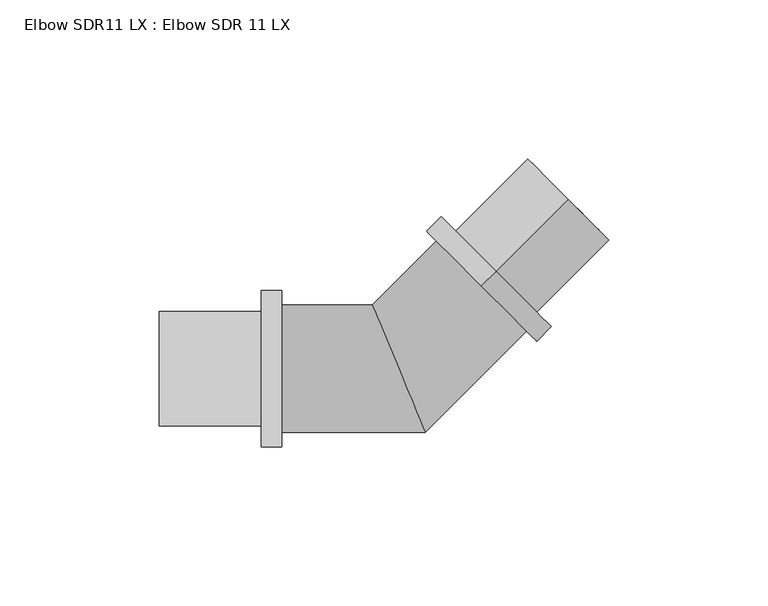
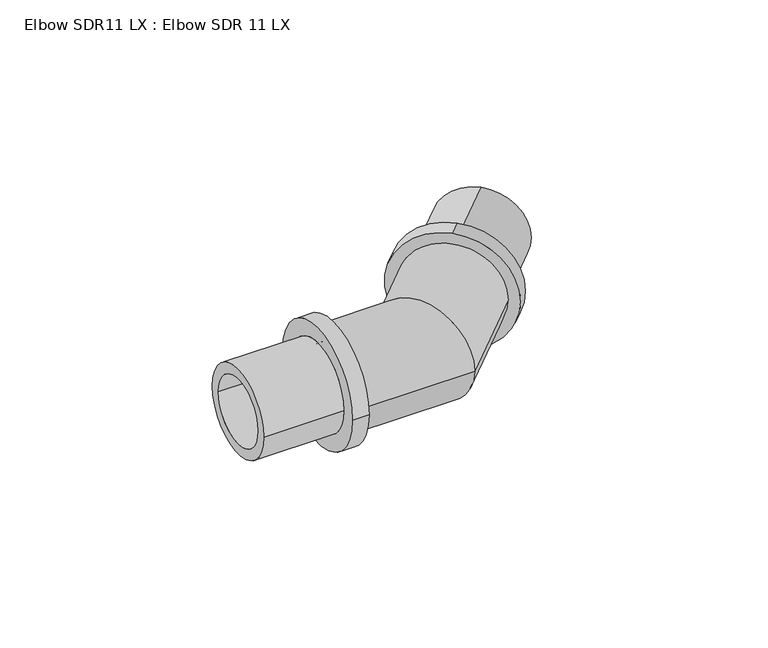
"""IFC4 building model written with IfcOpenShell, lengths in millimetres: pipe fitting geometry, Elbow SDR11 LX : Elbow SDR 11 LX."""

from ifc_helpers import new_model, si_unit, frame, origin, place, context, project, spatial, polyline, circle_curve, ellipse_curve, source, transform, mapped, element, save
from ifc_brep_helpers import plane_surface, cylinder_surface, revolved_surface, advanced_brep


def elbow_sdr11_lx_elbow_sdr_11_lx_ce320dea(model_context):
    return source(origin(), model_context, "Body", "AdvancedBrep", [
        advanced_brep(
        [(-36.7, -20.0, 0.0), (-36.7, 20.0, 0.0), (-36.7, -13.75, 0.0), (-36.7, 13.75, 0.0), (8.2842712, -20.0, 0.0), (-8.2842712, 20.0, 0.0), (5.6954365, -13.75, 0.0), (-5.6954365, 13.75, 0.0), (40.0929545, 11.8086832, 0.0), (11.8086832, 40.0929545, 0.0), (35.6735371, 16.2281006, 0.0), (16.2281006, 35.6735371, 0.0)],
        [
            (0, 1, circle_curve(frame((-36.7, 0.0, 0.0), z_axis=(-1.0, 0.0, 0.0), x_axis=(0.0, 1.0, 0.0)), 20.0)),
            (1, 0, circle_curve(frame((-36.7, 0.0, 0.0), z_axis=(-1.0, 0.0, 0.0), x_axis=(0.0, 1.0, 0.0)), 20.0)),
            (2, 3, circle_curve(frame((-36.7, 0.0, 0.0), z_axis=(1.0, 0.0, 0.0), x_axis=(0.0, 1.0, 0.0)), 13.75)),
            (3, 2, circle_curve(frame((-36.7, 0.0, 0.0), z_axis=(1.0, 0.0, 0.0), x_axis=(0.0, 1.0, 0.0)), 13.75)),
            (0, 4),
            (4, 5, ellipse_curve(frame((0.0, 0.0, 0.0), z_axis=(-0.9238795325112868, -0.3826834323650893, 0.0), x_axis=(-0.3826834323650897, 0.9238795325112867, 0.0)), 21.647844, 20.0)),
            (5, 1),
            (5, 4, ellipse_curve(frame((0.0, 0.0, 0.0), z_axis=(-0.9238795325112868, -0.3826834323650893, 0.0), x_axis=(-0.3826834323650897, 0.9238795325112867, 0.0)), 21.647844, 20.0)),
            (2, 6),
            (6, 7, ellipse_curve(frame((0.0, 0.0, 0.0), z_axis=(0.9238795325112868, 0.3826834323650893, 0.0), x_axis=(0.3826834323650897, -0.9238795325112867, 0.0)), 14.8828928, 13.75)),
            (7, 3),
            (7, 6, ellipse_curve(frame((0.0, 0.0, 0.0), z_axis=(0.9238795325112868, 0.3826834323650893, 0.0), x_axis=(0.3826834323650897, -0.9238795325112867, 0.0)), 14.8828928, 13.75)),
            (8, 9, circle_curve(frame((25.9508189, 25.9508189, 0.0), z_axis=(0.7071067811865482, 0.7071067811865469, 0.0), x_axis=(-0.7071067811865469, 0.7071067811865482, 0.0)), 20.0)),
            (9, 8, circle_curve(frame((25.9508189, 25.9508189, 0.0), z_axis=(0.7071067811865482, 0.7071067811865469, 0.0), x_axis=(-0.7071067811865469, 0.7071067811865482, 0.0)), 20.0)),
            (10, 11, circle_curve(frame((25.9508189, 25.9508189, 0.0), z_axis=(-0.7071067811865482, -0.7071067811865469, 0.0), x_axis=(-0.7071067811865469, 0.7071067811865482, 0.0)), 13.75)),
            (11, 10, circle_curve(frame((25.9508189, 25.9508189, 0.0), z_axis=(-0.7071067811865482, -0.7071067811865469, 0.0), x_axis=(-0.7071067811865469, 0.7071067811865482, 0.0)), 13.75)),
            (4, 8),
            (9, 5),
            (6, 10),
            (11, 7),
        ],
        [
            plane_surface(frame((-36.7, 0.0, 0.0), z_axis=(-1.0, 0.0, 0.0), x_axis=(0.0, 0.0, 1.0))),
            cylinder_surface(frame((-36.7, 0.0, 0.0), z_axis=(-1.0, 0.0, 0.0), x_axis=(0.0, 1.0, 0.0)), 20.0),
            revolved_surface(polyline([(5.695436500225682, 13.75, 0.0), (-36.7, 13.75, 0.0)]), (-36.7, 0.0, 0.0), (1.0, 0.0, 0.0)),
            plane_surface(frame((25.9508189, 25.9508189, 0.0), z_axis=(0.7071067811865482, 0.7071067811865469, 0.0), x_axis=(0.0, 0.0, 1.0))),
            cylinder_surface(frame((0.0, 0.0, 0.0), z_axis=(-0.7071067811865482, -0.7071067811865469, 0.0), x_axis=(-0.7071067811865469, 0.7071067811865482, 0.0)), 20.0),
            revolved_surface(polyline([(16.22810065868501, 35.673537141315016, 0.0), (-13.750000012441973, 5.695436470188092, 0.0)]), (0.0, 0.0, 0.0), (0.7071067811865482, 0.7071067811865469, 0.0)),
        ],
        [
            (0, [[1, 2], [3, 4]]),
            (1, [[-1, 5, 6, 7]]),
            (1, [[-2, -7, 8, -5]]),
            (2, [[-3, 9, 10, 11]]),
            (2, [[-4, -11, 12, -9]]),
            (3, [[13, 14], [15, 16]]),
            (4, [[-6, 17, -14, 18]]),
            (4, [[-8, -18, -13, -17]]),
            (5, [[-10, 19, -16, 20]]),
            (5, [[-12, -20, -15, -19]]),
        ],
    ),
        advanced_brep(
        [(53.1744299, 53.1744299, 13.75), (53.1744299, 53.1744299, -13.75), (25.9508189, 25.9508189, -13.75), (25.9508189, 25.9508189, 13.75), (30.5470129, 30.5470129, 18.0), (30.5470129, 30.5470129, -18.0), (53.1744299, 53.1744299, -18.0), (53.1744299, 53.1744299, 18.0), (25.9508189, 25.9508189, 24.5), (25.9508189, 25.9508189, -24.5), (30.5470129, 30.5470129, -24.5), (30.5470129, 30.5470129, 24.5)],
        [
            (0, 1, circle_curve(frame((53.1744299, 53.1744299, 0.0), z_axis=(0.7071067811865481, 0.7071067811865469, 0.0), x_axis=(0.0, 0.0, -1.0)), 13.75)),
            (1, 2),
            (2, 3, circle_curve(frame((25.9508189, 25.9508189, 0.0), z_axis=(-0.7071067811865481, -0.7071067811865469, 0.0), x_axis=(0.0, 0.0, -1.0)), 13.75)),
            (3, 0),
            (4, 5, circle_curve(frame((30.5470129, 30.5470129, 0.0), z_axis=(0.7071067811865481, 0.7071067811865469, 0.0), x_axis=(0.0, 0.0, -1.0)), 18.0)),
            (5, 6),
            (6, 7, circle_curve(frame((53.1744299, 53.1744299, 0.0), z_axis=(-0.7071067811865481, -0.7071067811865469, 0.0), x_axis=(0.0, 0.0, -1.0)), 18.0)),
            (7, 4),
            (8, 9, circle_curve(frame((25.9508189, 25.9508189, 0.0), z_axis=(0.7071067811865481, 0.7071067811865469, 0.0), x_axis=(0.0, 0.0, -1.0)), 24.5)),
            (9, 10),
            (10, 11, circle_curve(frame((30.5470129, 30.5470129, 0.0), z_axis=(-0.7071067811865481, -0.7071067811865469, 0.0), x_axis=(0.0, 0.0, -1.0)), 24.5)),
            (11, 8),
            (1, 0, circle_curve(frame((53.1744299, 53.1744299, 0.0), z_axis=(0.7071067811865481, 0.7071067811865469, 0.0), x_axis=(0.0, 0.0, 1.0)), 13.75)),
            (3, 2, circle_curve(frame((25.9508189, 25.9508189, 0.0), z_axis=(-0.7071067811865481, -0.7071067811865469, 0.0), x_axis=(0.0, 0.0, 1.0)), 13.75)),
            (6, 7, circle_curve(frame((53.1744299, 53.1744299, 0.0), z_axis=(0.7071067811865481, 0.7071067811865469, 0.0), x_axis=(0.0, 0.0, 1.0)), 18.0)),
            (5, 4, circle_curve(frame((30.5470129, 30.5470129, 0.0), z_axis=(0.7071067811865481, 0.7071067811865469, 0.0), x_axis=(0.0, 0.0, 1.0)), 18.0)),
            (10, 11, circle_curve(frame((30.5470129, 30.5470129, 0.0), z_axis=(0.7071067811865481, 0.7071067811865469, 0.0), x_axis=(0.0, 0.0, 1.0)), 24.5)),
            (9, 8, circle_curve(frame((25.9508189, 25.9508189, 0.0), z_axis=(0.7071067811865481, 0.7071067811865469, 0.0), x_axis=(0.0, 0.0, 1.0)), 24.5)),
        ],
        [
            revolved_surface(polyline([(25.950818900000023, 25.950818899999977, -13.75), (53.17442990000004, 53.17442989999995, -13.75)]), (0.0, 0.0, 0.0), (-0.7071067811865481, -0.7071067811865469, 0.0)),
            cylinder_surface(frame((0.0, 0.0, 0.0), z_axis=(-0.7071067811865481, -0.7071067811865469, 0.0), x_axis=(0.0, 0.0, -1.0)), 18.0),
            cylinder_surface(frame((0.0, 0.0, 0.0), z_axis=(-0.7071067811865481, -0.7071067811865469, 0.0), x_axis=(0.0, 0.0, -1.0)), 24.5),
            revolved_surface(polyline([(25.950818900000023, 25.950818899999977, 13.75), (53.17442990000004, 53.17442989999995, 13.75)]), (0.0, 0.0, 0.0), (-0.7071067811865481, -0.7071067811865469, 0.0)),
            plane_surface(frame((53.1744299, 53.1744299, 0.0), z_axis=(0.7071067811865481, 0.7071067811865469, 0.0), x_axis=(0.0, 0.0, 1.0))),
            cylinder_surface(frame((0.0, 0.0, 0.0), z_axis=(-0.7071067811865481, -0.7071067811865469, 0.0), x_axis=(0.0, 0.0, 1.0)), 18.0),
            plane_surface(frame((30.5470129, 30.5470129, 0.0), z_axis=(0.7071067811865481, 0.7071067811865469, 0.0), x_axis=(0.0, 0.0, 1.0))),
            cylinder_surface(frame((0.0, 0.0, 0.0), z_axis=(-0.7071067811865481, -0.7071067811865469, 0.0), x_axis=(0.0, 0.0, 1.0)), 24.5),
            plane_surface(frame((25.9508189, 25.9508189, 0.0), z_axis=(-0.7071067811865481, -0.7071067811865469, 0.0), x_axis=(0.0, 0.0, 1.0))),
        ],
        [
            (0, [[1, 2, 3, 4]]),
            (1, [[5, 6, 7, 8]]),
            (2, [[9, 10, 11, 12]]),
            (3, [[13, -4, 14, -2]]),
            (4, [[15, -7], [-13, -1]]),
            (5, [[16, -8, -15, -6]]),
            (6, [[17, -11], [-16, -5]]),
            (7, [[18, -12, -17, -10]]),
            (8, [[-18, -9], [-14, -3]]),
        ],
    ),
        advanced_brep(
        [(-36.7, 24.5, 0.0), (-36.7, -24.5, 0.0), (-43.2, -24.5, 0.0), (-43.2, 24.5, 0.0), (-43.2, 18.0, 0.0), (-43.2, -18.0, 0.0), (-75.2, -18.0, 0.0), (-75.2, 18.0, 0.0), (-75.2, 13.75, 0.0), (-75.2, -13.75, 0.0), (-36.7, -13.75, 0.0), (-36.7, 13.75, 0.0)],
        [
            (0, 1, circle_curve(frame((-36.7, 0.0, 0.0), z_axis=(-1.0, 0.0, 0.0), x_axis=(0.0, -1.0, 0.0)), 24.5)),
            (1, 2),
            (2, 3, circle_curve(frame((-43.2, 0.0, 0.0), z_axis=(1.0, 0.0, 0.0), x_axis=(0.0, -1.0, 0.0)), 24.5)),
            (3, 0),
            (4, 5, circle_curve(frame((-43.2, 0.0, 0.0), z_axis=(-1.0, 0.0, 0.0), x_axis=(0.0, -1.0, 0.0)), 18.0)),
            (5, 6),
            (6, 7, circle_curve(frame((-75.2, 0.0, 0.0), z_axis=(1.0, 0.0, 0.0), x_axis=(0.0, -1.0, 0.0)), 18.0)),
            (7, 4),
            (8, 9, circle_curve(frame((-75.2, 0.0, 0.0), z_axis=(-1.0, 0.0, 0.0), x_axis=(0.0, -1.0, 0.0)), 13.75)),
            (9, 10),
            (10, 11, circle_curve(frame((-36.7, 0.0, 0.0), z_axis=(1.0, 0.0, 0.0), x_axis=(0.0, -1.0, 0.0)), 13.75)),
            (11, 8),
            (0, 1, circle_curve(frame((-36.7, 0.0, 0.0), z_axis=(1.0, 0.0, 0.0), x_axis=(0.0, 1.0, 0.0)), 24.5)),
            (10, 11, circle_curve(frame((-36.7, 0.0, 0.0), z_axis=(-1.0, 0.0, 0.0), x_axis=(0.0, 1.0, 0.0)), 13.75)),
            (3, 2, circle_curve(frame((-43.2, 0.0, 0.0), z_axis=(1.0, 0.0, 0.0), x_axis=(0.0, 1.0, 0.0)), 24.5)),
            (4, 5, circle_curve(frame((-43.2, 0.0, 0.0), z_axis=(1.0, 0.0, 0.0), x_axis=(0.0, 1.0, 0.0)), 18.0)),
            (7, 6, circle_curve(frame((-75.2, 0.0, 0.0), z_axis=(1.0, 0.0, 0.0), x_axis=(0.0, 1.0, 0.0)), 18.0)),
            (8, 9, circle_curve(frame((-75.2, 0.0, 0.0), z_axis=(1.0, 0.0, 0.0), x_axis=(0.0, 1.0, 0.0)), 13.75)),
        ],
        [
            cylinder_surface(frame((0.0, 0.0, 0.0), z_axis=(1.0, 0.0, 0.0), x_axis=(0.0, -1.0, 0.0)), 24.5),
            cylinder_surface(frame((0.0, 0.0, 0.0), z_axis=(1.0, 0.0, 0.0), x_axis=(0.0, -1.0, 0.0)), 18.0),
            revolved_surface(polyline([(-36.7, -13.75, 0.0), (-75.2, -13.75, 0.0)]), (0.0, 0.0, 0.0), (1.0, 0.0, 0.0)),
            plane_surface(frame((-36.7, 0.0, 0.0), z_axis=(1.0, 0.0, 0.0), x_axis=(0.0, 1.0, 0.0))),
            cylinder_surface(frame((0.0, 0.0, 0.0), z_axis=(1.0, 0.0, 0.0), x_axis=(0.0, 1.0, 0.0)), 24.5),
            plane_surface(frame((-43.2, 0.0, 0.0), z_axis=(-1.0, 0.0, 0.0), x_axis=(0.0, 1.0, 0.0))),
            cylinder_surface(frame((0.0, 0.0, 0.0), z_axis=(1.0, 0.0, 0.0), x_axis=(0.0, 1.0, 0.0)), 18.0),
            plane_surface(frame((-75.2, 0.0, 0.0), z_axis=(-1.0, 0.0, 0.0), x_axis=(0.0, 1.0, 0.0))),
            revolved_surface(polyline([(-36.7, 13.75, 0.0), (-75.2, 13.75, 0.0)]), (0.0, 0.0, 0.0), (1.0, 0.0, 0.0)),
        ],
        [
            (0, [[1, 2, 3, 4]]),
            (1, [[5, 6, 7, 8]]),
            (2, [[9, 10, 11, 12]]),
            (3, [[13, -1], [14, -11]]),
            (4, [[-13, -4, 15, -2]]),
            (5, [[-15, -3], [16, -5]]),
            (6, [[-16, -8, 17, -6]]),
            (7, [[-17, -7], [18, -9]]),
            (8, [[-18, -12, -14, -10]]),
        ],
    ),
    ])


if __name__ == "__main__":
    model = new_model("IFC4")
    model_context = context("Model", 3, world=origin())
    ifc_project = project(units=[si_unit("LENGTHUNIT", "METRE", prefix="MILLI")], contexts=[model_context])
    site = spatial("IfcSite", under=ifc_project)
    building = spatial("IfcBuilding", under=site)
    placement = place(None, origin())
    elbow_sdr11_lx_elbow_sdr_11_lx_shape = elbow_sdr11_lx_elbow_sdr_11_lx_ce320dea(model_context)
    element("IfcPipeFitting", 1, ObjectType="Elbow SDR11 LX : Elbow SDR 11 LX", at=placement, inside=building, context=model_context, shape_type="MappedRepresentation", body=[
        mapped(elbow_sdr11_lx_elbow_sdr_11_lx_shape, transform((0.0, 0.0, 0.0), x_axis=(1.0, 0.0, 0.0), y_axis=(0.0, 1.0, 0.0), z_axis=(0.0, 0.0, 1.0))),
    ])
    save(model, "model.ifc")
